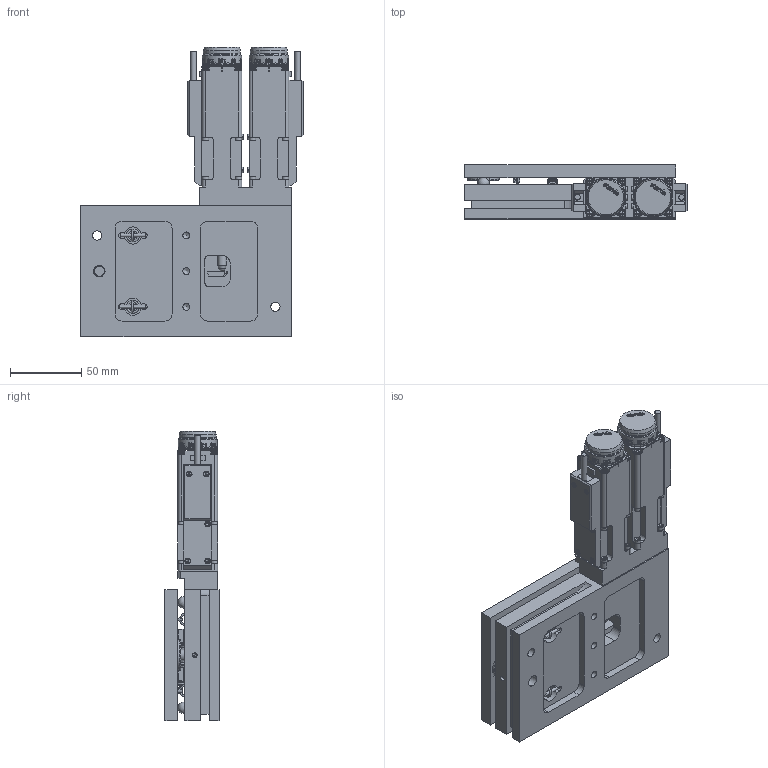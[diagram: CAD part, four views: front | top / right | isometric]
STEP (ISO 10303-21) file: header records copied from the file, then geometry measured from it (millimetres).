
FILE_DESCRIPTION(/* description */ (''),/* implementation_level */ '2;1');
FILE_NAME(/* name */ 'C:\Users\dsgn39.CENTRAS\Desktop\Internetui\8MTP116\8MTP116.stp',/* time_stamp */ '2020-01-06T16:45:15+02:00',/* author */ ('dsgn39'),/* organization */ (''),/* preprocessor_version */ 'ST-DEVELOPER v15.2',/* originating_system */ 'Autodesk Inventor 2014',/* authorisation */ '');
FILE_SCHEMA (('AUTOMOTIVE_DESIGN { 1 0 10303 214 3 1 1 }'));
Products named in the file (2): Part8; Assembly4
Bounding box: 156 x 38 x 203 mm (x, y, z)
Volume: 576724 mm3; surface area: 122373.9 mm2
Topology: 1 solids, 32 shells, 3673 faces, 9957 edges, 6538 vertices
Faces by surface type: plane 1884, bspline 844, cylinder 600, cone 189, torus 124, sphere 32
Full cylindrical faces by diameter (mm): 1.783 x6, 2 x14, 2.256 x2, 2.3 x6, 2.4 x6, 2.5 x18, 2.8 x16, 2.9 x2, 3 x2, 3.242 x23, 3.4 x2, 3.8 x10, 4 x15, 4.5 x16, 4.917 x17, 5 x4, 5.5 x2, 6 x2, 6.5 x2, 8 x3, 11 x2, 12 x4, 22 x1, 25 x2, 26 x2, 27.5 x2
Entity records: 244850 total; most frequent: CARTESIAN_POINT 160256, ORIENTED_EDGE 18820, DIRECTION 14646, EDGE_CURVE 9401, VERTEX_POINT 6368, LINE 5114, VECTOR 5114, AXIS2_PLACEMENT_3D 4766
